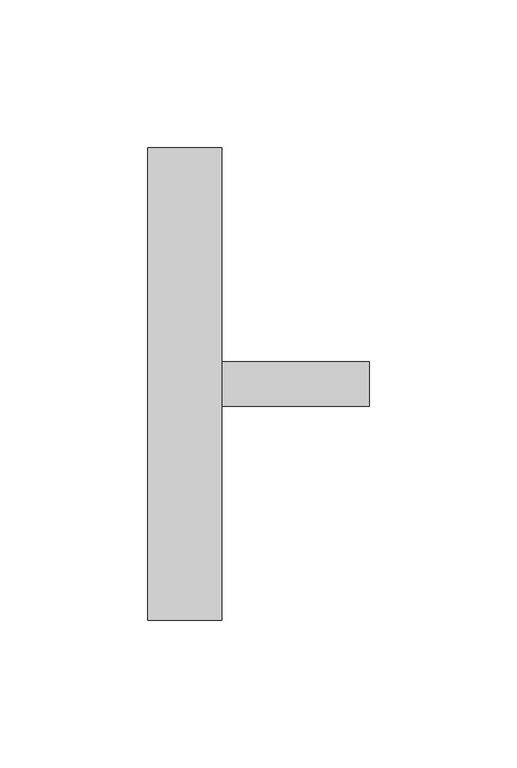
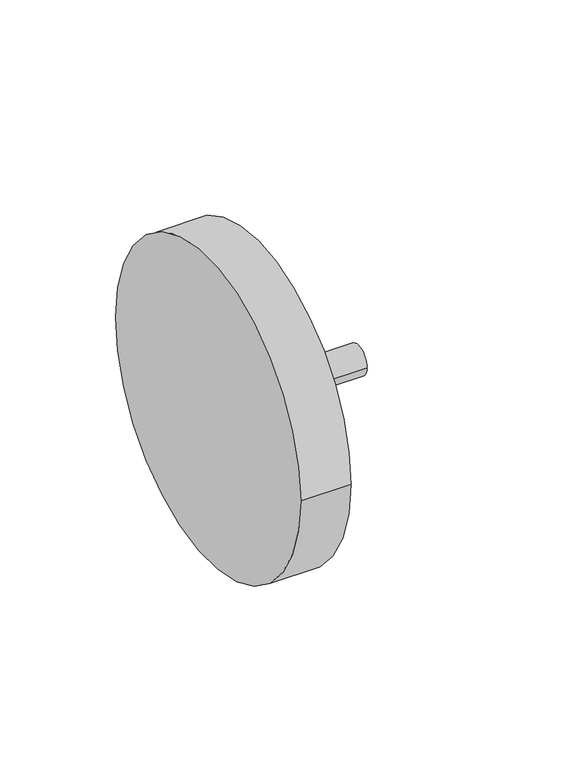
"""IFC4 building model written with IfcOpenShell, lengths in millimetres: pipe fitting geometry, NLRS_52_PIF_UN_PE eindkap_geb : DN30-200 / ø32-200."""

from ifc_helpers import new_model, si_unit, point, frame, origin, origin_2d, place, context, project, spatial, circle_curve, trimmed, segment, composite_curve, outline, extrude, source, transform, mapped, element, save


def pipe_fitting_029c0207(model_context):
    return source(origin(), model_context, "Body", "SweptSolid", [
        extrude(outline(composite_curve([segment(trimmed(circle_curve(origin_2d(), 7.5), [point((-7.5, 0.0))], [point((7.5, 0.0))], False, "CARTESIAN"), True, "CONTINUOUS"), segment(trimmed(circle_curve(origin_2d(), 7.5), [point((7.5, 0.0))], [point((-7.5, 0.0))], False, "CARTESIAN"), True, "CONTINUOUS")], self_intersect=False)), frame((18.0, 0.0, 0.0), z_axis=(1.0, 0.0, 0.0), x_axis=(0.0, 1.0, 0.0)), (0.0, 0.0, 1.0), 50.0),
        extrude(outline(composite_curve([segment(trimmed(circle_curve(origin_2d(), 80.0), [point((-80.0, 0.0))], [point((80.0, 0.0))], False, "CARTESIAN"), True, "CONTINUOUS"), segment(trimmed(circle_curve(origin_2d(), 80.0), [point((80.0, 0.0))], [point((-80.0, 0.0))], False, "CARTESIAN"), True, "CONTINUOUS")], self_intersect=False)), frame((-7.0, 0.0, 0.0), z_axis=(1.0, 0.0, 0.0), x_axis=(0.0, 1.0, 0.0)), (0.0, 0.0, 1.0), 25.0),
    ])


if __name__ == "__main__":
    model = new_model("IFC4")
    model_context = context("Model", 3, world=origin())
    ifc_project = project(units=[si_unit("LENGTHUNIT", "METRE", prefix="MILLI")], contexts=[model_context])
    site = spatial("IfcSite", under=ifc_project)
    building = spatial("IfcBuilding", under=site)
    placement = place(None, origin())
    pipe_fitting_shape = pipe_fitting_029c0207(model_context)
    element("IfcPipeFitting", 1, ObjectType="NLRS_52_PIF_UN_PE eindkap_geb : DN30-200 / ø32-200", at=placement, inside=building, context=model_context, shape_type="MappedRepresentation", body=[
        mapped(pipe_fitting_shape, transform((0.0, 0.0, 0.0), x_axis=(1.0, 0.0, 0.0), y_axis=(0.0, 1.0, 0.0), z_axis=(0.0, 0.0, 1.0))),
    ])
    save(model, "model.ifc")
